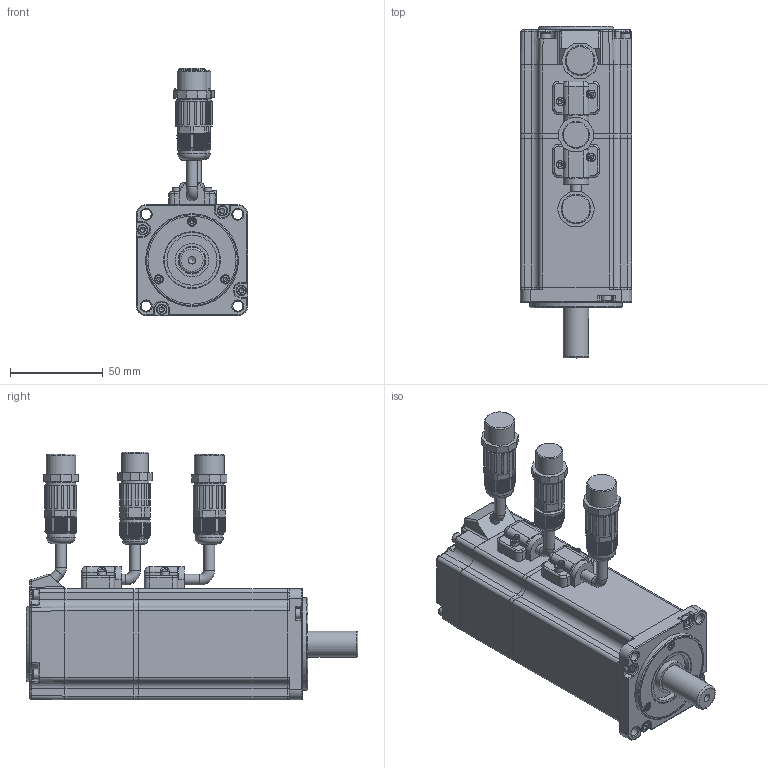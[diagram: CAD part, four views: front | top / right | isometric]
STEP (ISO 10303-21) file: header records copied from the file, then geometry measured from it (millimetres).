
FILE_DESCRIPTION(/* description */ (''),/* implementation_level */ '2;1');
FILE_NAME(/* name */ '60SY-M01930LCMS1-Z.stp',/* time_stamp */ '2024-01-04T11:04:52+08:00',/* author */ (''),/* organization */ (''),/* preprocessor_version */ 'ST-DEVELOPER v18.1',/* originating_system */ 'SIEMENS PLM Software NX 2000',/* authorisation */ '');
FILE_SCHEMA (('AUTOMOTIVE_DESIGN { 1 0 10303 214 3 1 1 1 }'));
Products named in the file (1): 磁编刹车
Bounding box: 60 x 179 x 133.49 mm (x, y, z)
Volume: 520486.2 mm3; surface area: 102303.8 mm2
Topology: 31 solids, 39 shells, 2704 faces, 7051 edges, 4450 vertices
Faces by surface type: plane 1910, cylinder 363, sphere 146, cone 141, torus 95, bspline 49
Full cylindrical faces by diameter (mm): 2.05 x3, 2.38 x7, 2.5 x10, 2.6 x4, 2.874 x8, 2.9 x3, 3.4 x4, 3.479 x4, 3.5 x8, 4.2 x1, 4.5 x7, 5 x3, 5.5 x12, 5.8 x8, 6 x1, 10 x1, 13 x2, 13.5 x1, 14 x1, 14.5 x1, 14.8 x1, 15 x2, 15.3 x2, 15.6 x2, 16 x2, 16.1 x2, 16.5 x2, 17.3 x2, 18 x1, 22.5 x1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
Entity records: 83201 total; most frequent: CARTESIAN_POINT 20944, ORIENTED_EDGE 13532, DIRECTION 11461, EDGE_CURVE 6766, VERTEX_POINT 4395, AXIS2_PLACEMENT_3D 3881, LINE 3699, VECTOR 3699
